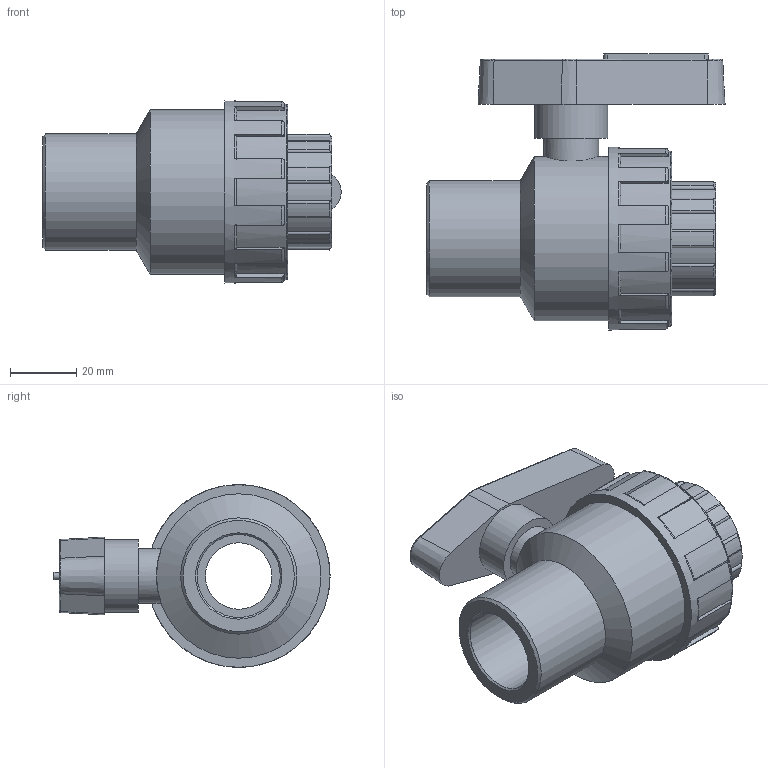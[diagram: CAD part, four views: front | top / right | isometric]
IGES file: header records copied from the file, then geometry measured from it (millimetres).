
Global section: file name: 11350025.ipt; native system: Autodesk Inventor 2015; preprocessor: unknown; author: KIM; date: 20171207.170426; units: millimetre
Bounding box: 89.79 x 83.12 x 55 mm (x, y, z)
Volume: 118925.4 mm3; surface area: 27159.9 mm2
Topology: 1 solids, 1 shells, 166 faces, 447 edges, 290 vertices
Faces by surface type: plane 64, cylinder 52, revolution 34, cone 16
Full cylindrical faces by diameter (mm): 16.5 x1, 22 x1, 35 x1, 49.5 x1, 52.8 x1, 55 x1
